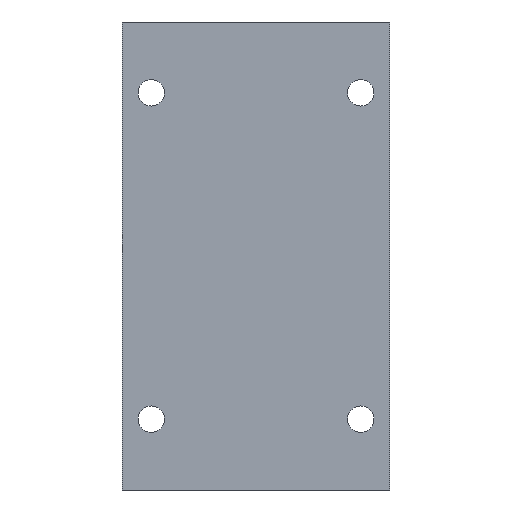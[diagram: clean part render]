
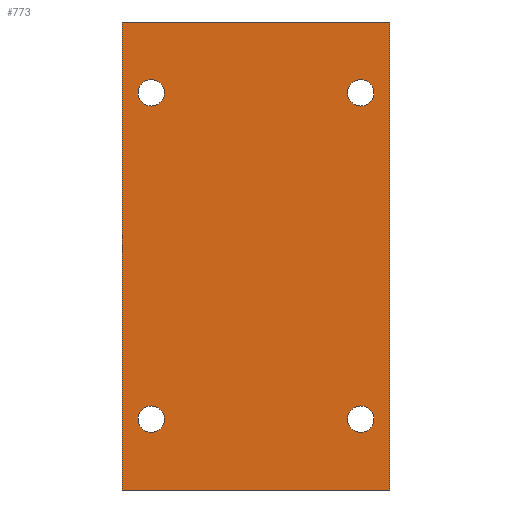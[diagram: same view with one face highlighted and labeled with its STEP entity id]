
A CAD part, front view. The second image highlights one B-rep face of the part: STEP entity #773.
In plain terms, the highlighted planar face has unit normal (0, -1, 0).
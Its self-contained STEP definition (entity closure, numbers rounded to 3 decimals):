
#5 = ORIENTED_EDGE ( 'NONE', *, *, #2745, .F. ) ;
#32 = FACE_BOUND ( 'NONE', #2510, .T. ) ;
#62 = DIRECTION ( 'NONE',  ( 0., 0., -1. ) ) ;
#78 = CARTESIAN_POINT ( 'NONE',  ( -34., -35., 53. ) ) ;
#85 = CARTESIAN_POINT ( 'NONE',  ( 34., -35., 53. ) ) ;
#88 = EDGE_CURVE ( 'NONE', #1629, #1249, #2633, .T. ) ;
#102 = ORIENTED_EDGE ( 'NONE', *, *, #2085, .F. ) ;
#175 = DIRECTION ( 'NONE',  ( 0., -1., 0. ) ) ;
#218 = CIRCLE ( 'NONE', #741, 4.3 ) ;
#237 = AXIS2_PLACEMENT_3D ( 'NONE', #1642, #2225, #3244 ) ;
#268 = EDGE_CURVE ( 'NONE', #1274, #385, #2247, .T. ) ;
#308 = LINE ( 'NONE', #1027, #3091 ) ;
#320 = VERTEX_POINT ( 'NONE', #3067 ) ;
#328 = AXIS2_PLACEMENT_3D ( 'NONE', #2042, #756, #1045 ) ;
#379 = AXIS2_PLACEMENT_3D ( 'NONE', #1309, #2324, #2073 ) ;
#385 = VERTEX_POINT ( 'NONE', #2525 ) ;
#441 = CARTESIAN_POINT ( 'NONE',  ( -43.5, -35., 76. ) ) ;
#519 = ORIENTED_EDGE ( 'NONE', *, *, #1612, .F. ) ;
#543 = EDGE_CURVE ( 'NONE', #1584, #2265, #872, .T. ) ;
#581 = CARTESIAN_POINT ( 'NONE',  ( -34., -35., 57.3 ) ) ;
#597 = VECTOR ( 'NONE', #2277, 1000. ) ;
#599 = ORIENTED_EDGE ( 'NONE', *, *, #1762, .T. ) ;
#626 = VERTEX_POINT ( 'NONE', #2395 ) ;
#732 = ORIENTED_EDGE ( 'NONE', *, *, #88, .F. ) ;
#741 = AXIS2_PLACEMENT_3D ( 'NONE', #1987, #3004, #2287 ) ;
#756 = DIRECTION ( 'NONE',  ( 0., 1., 0. ) ) ;
#762 = VERTEX_POINT ( 'NONE', #2834 ) ;
#768 = DIRECTION ( 'NONE',  ( 0., 0., -1. ) ) ;
#773 = ADVANCED_FACE ( 'NONE', ( #2005, #1786, #2577, #32, #3021 ), #2023, .F. ) ;
#827 = EDGE_CURVE ( 'NONE', #762, #626, #1467, .T. ) ;
#871 = CARTESIAN_POINT ( 'NONE',  ( -43.5, -35., -76. ) ) ;
#872 = CIRCLE ( 'NONE', #2092, 4.3 ) ;
#967 = ORIENTED_EDGE ( 'NONE', *, *, #2140, .F. ) ;
#969 = DIRECTION ( 'NONE',  ( 0., 0., -1. ) ) ;
#1027 = CARTESIAN_POINT ( 'NONE',  ( 43.5, -35., 76. ) ) ;
#1045 = DIRECTION ( 'NONE',  ( 0., 0., 1. ) ) ;
#1090 = ORIENTED_EDGE ( 'NONE', *, *, #268, .F. ) ;
#1138 = DIRECTION ( 'NONE',  ( 0., 0., -1. ) ) ;
#1156 = LINE ( 'NONE', #871, #1693 ) ;
#1198 = DIRECTION ( 'NONE',  ( 0., -1., 0. ) ) ;
#1249 = VERTEX_POINT ( 'NONE', #2282 ) ;
#1274 = VERTEX_POINT ( 'NONE', #2570 ) ;
#1290 = DIRECTION ( 'NONE',  ( 0., -1., 0. ) ) ;
#1309 = CARTESIAN_POINT ( 'NONE',  ( -34., -35., -53. ) ) ;
#1330 = DIRECTION ( 'NONE',  ( 0., -1., 0. ) ) ;
#1360 = CARTESIAN_POINT ( 'NONE',  ( 43.5, -35., 76. ) ) ;
#1387 = CIRCLE ( 'NONE', #1976, 4.3 ) ;
#1420 = DIRECTION ( 'NONE',  ( 0., 0., -1. ) ) ;
#1467 = CIRCLE ( 'NONE', #379, 4.3 ) ;
#1542 = EDGE_LOOP ( 'NONE', ( #1090, #102 ) ) ;
#1584 = VERTEX_POINT ( 'NONE', #3280 ) ;
#1612 = EDGE_CURVE ( 'NONE', #2746, #1714, #2229, .T. ) ;
#1629 = VERTEX_POINT ( 'NONE', #581 ) ;
#1642 = CARTESIAN_POINT ( 'NONE',  ( 34., -35., -53. ) ) ;
#1693 = VECTOR ( 'NONE', #2164, 1000. ) ;
#1714 = VERTEX_POINT ( 'NONE', #1360 ) ;
#1762 = EDGE_CURVE ( 'NONE', #320, #2762, #1156, .T. ) ;
#1786 = FACE_OUTER_BOUND ( 'NONE', #2152, .T. ) ;
#1849 = EDGE_CURVE ( 'NONE', #2746, #320, #3275, .T. ) ;
#1898 = EDGE_CURVE ( 'NONE', #1249, #1629, #1965, .T. ) ;
#1931 = CARTESIAN_POINT ( 'NONE',  ( -34., -35., 53. ) ) ;
#1957 = CARTESIAN_POINT ( 'NONE',  ( 43.5, -35., -76. ) ) ;
#1965 = CIRCLE ( 'NONE', #2281, 4.3 ) ;
#1976 = AXIS2_PLACEMENT_3D ( 'NONE', #3184, #1198, #1138 ) ;
#1987 = CARTESIAN_POINT ( 'NONE',  ( 34., -35., -53. ) ) ;
#2005 = FACE_BOUND ( 'NONE', #1542, .T. ) ;
#2023 = PLANE ( 'NONE',  #328 ) ;
#2042 = CARTESIAN_POINT ( 'NONE',  ( -43.5, -35., 76. ) ) ;
#2073 = DIRECTION ( 'NONE',  ( 0., 0., -1. ) ) ;
#2085 = EDGE_CURVE ( 'NONE', #385, #1274, #218, .T. ) ;
#2092 = AXIS2_PLACEMENT_3D ( 'NONE', #85, #1330, #2646 ) ;
#2108 = DIRECTION ( 'NONE',  ( 0., -1., 0. ) ) ;
#2140 = EDGE_CURVE ( 'NONE', #1714, #2762, #308, .T. ) ;
#2152 = EDGE_LOOP ( 'NONE', ( #599, #967, #519, #2544 ) ) ;
#2163 = CARTESIAN_POINT ( 'NONE',  ( -43.5, -35., 76. ) ) ;
#2164 = DIRECTION ( 'NONE',  ( 1., 0., 0. ) ) ;
#2200 = ORIENTED_EDGE ( 'NONE', *, *, #2867, .F. ) ;
#2225 = DIRECTION ( 'NONE',  ( 0., -1., 0. ) ) ;
#2229 = LINE ( 'NONE', #3247, #597 ) ;
#2247 = CIRCLE ( 'NONE', #237, 4.3 ) ;
#2265 = VERTEX_POINT ( 'NONE', #2599 ) ;
#2277 = DIRECTION ( 'NONE',  ( 1., 0., 0. ) ) ;
#2281 = AXIS2_PLACEMENT_3D ( 'NONE', #1931, #175, #2448 ) ;
#2282 = CARTESIAN_POINT ( 'NONE',  ( -34., -35., 48.7 ) ) ;
#2287 = DIRECTION ( 'NONE',  ( 0., 0., -1. ) ) ;
#2324 = DIRECTION ( 'NONE',  ( 0., -1., 0. ) ) ;
#2395 = CARTESIAN_POINT ( 'NONE',  ( -34., -35., -48.7 ) ) ;
#2448 = DIRECTION ( 'NONE',  ( 0., 0., -1. ) ) ;
#2510 = EDGE_LOOP ( 'NONE', ( #2718, #5 ) ) ;
#2525 = CARTESIAN_POINT ( 'NONE',  ( 34., -35., -48.7 ) ) ;
#2544 = ORIENTED_EDGE ( 'NONE', *, *, #1849, .T. ) ;
#2570 = CARTESIAN_POINT ( 'NONE',  ( 34., -35., -57.3 ) ) ;
#2577 = FACE_BOUND ( 'NONE', #3068, .T. ) ;
#2599 = CARTESIAN_POINT ( 'NONE',  ( 34., -35., 57.3 ) ) ;
#2633 = CIRCLE ( 'NONE', #3060, 4.3 ) ;
#2646 = DIRECTION ( 'NONE',  ( 0., 0., -1. ) ) ;
#2718 = ORIENTED_EDGE ( 'NONE', *, *, #827, .F. ) ;
#2726 = ORIENTED_EDGE ( 'NONE', *, *, #543, .F. ) ;
#2745 = EDGE_CURVE ( 'NONE', #626, #762, #1387, .T. ) ;
#2746 = VERTEX_POINT ( 'NONE', #2163 ) ;
#2762 = VERTEX_POINT ( 'NONE', #1957 ) ;
#2784 = EDGE_LOOP ( 'NONE', ( #2726, #2200 ) ) ;
#2834 = CARTESIAN_POINT ( 'NONE',  ( -34., -35., -57.3 ) ) ;
#2836 = AXIS2_PLACEMENT_3D ( 'NONE', #3055, #1290, #768 ) ;
#2867 = EDGE_CURVE ( 'NONE', #2265, #1584, #2982, .T. ) ;
#2971 = ORIENTED_EDGE ( 'NONE', *, *, #1898, .F. ) ;
#2982 = CIRCLE ( 'NONE', #2836, 4.3 ) ;
#3004 = DIRECTION ( 'NONE',  ( 0., -1., 0. ) ) ;
#3021 = FACE_BOUND ( 'NONE', #2784, .T. ) ;
#3055 = CARTESIAN_POINT ( 'NONE',  ( 34., -35., 53. ) ) ;
#3060 = AXIS2_PLACEMENT_3D ( 'NONE', #78, #2108, #62 ) ;
#3067 = CARTESIAN_POINT ( 'NONE',  ( -43.5, -35., -76. ) ) ;
#3068 = EDGE_LOOP ( 'NONE', ( #2971, #732 ) ) ;
#3091 = VECTOR ( 'NONE', #969, 1000. ) ;
#3184 = CARTESIAN_POINT ( 'NONE',  ( -34., -35., -53. ) ) ;
#3196 = VECTOR ( 'NONE', #1420, 1000. ) ;
#3244 = DIRECTION ( 'NONE',  ( 0., 0., -1. ) ) ;
#3247 = CARTESIAN_POINT ( 'NONE',  ( -43.5, -35., 76. ) ) ;
#3275 = LINE ( 'NONE', #441, #3196 ) ;
#3280 = CARTESIAN_POINT ( 'NONE',  ( 34., -35., 48.7 ) ) ;
